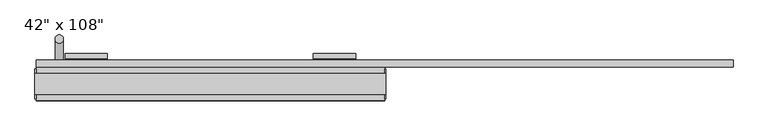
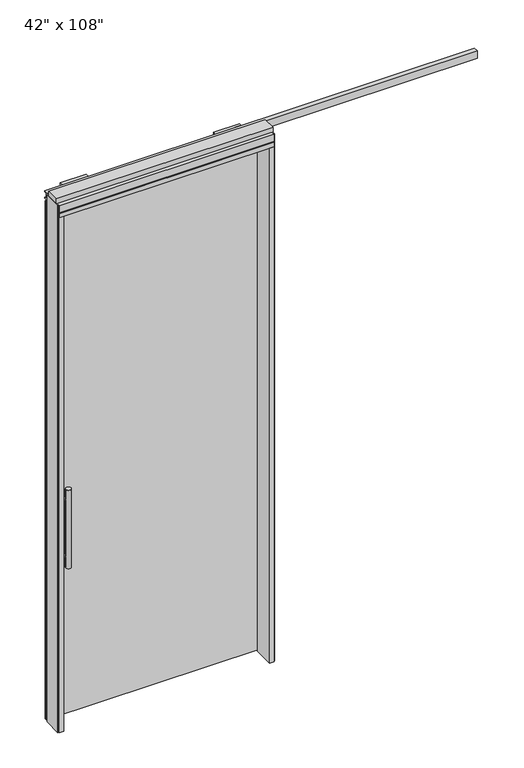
"""IFC4 building model written with IfcOpenShell, lengths in millimetres: furniture geometry."""

from ifc_helpers import new_model, si_unit, frame, origin, origin_with_axes, place, context, project, spatial, polyline, circle_curve, ellipse_curve, outline, extrude, source, transform, mapped, element, save
from ifc_brep_helpers import plane_surface, cylinder_surface, advanced_brep


def furniture_4a507a47(model_context):
    return source(origin(), model_context, "Body", "SolidModel", [
        extrude(outline(polyline([(469.4264771, 74.3677216), (469.4264771, 64.2077216), (-589.4995229, 64.2077216), (-589.4995229, 74.3677216), (469.4264771, 74.3677216)])), origin_with_axes(), (0.0, 0.0, 1.0), 2696.21),
        advanced_brep(
        [(-532.2225229, -3.3562784, 1219.2), (-506.8225229, -3.3562784, 1219.2), (-532.2225229, -3.3562784, 812.8), (-506.8225229, -3.3562784, 812.8), (-532.2225229, -3.3562784, 1164.336), (-532.2225229, -3.3562784, 867.664), (-506.8225229, -3.3562784, 867.664), (-506.8225229, -3.3562784, 1164.336), (-532.2225229, 64.2077216, 1164.336), (-506.8225229, 64.2077216, 1164.336), (-532.2225229, 64.2077216, 867.664), (-506.8225229, 64.2077216, 867.664)],
        [
            (0, 1, circle_curve(frame((-519.5225229, -3.3562784, 1219.2), z_axis=(0.0, 0.0, 1.0), x_axis=(1.0, 0.0, 0.0)), 12.7)),
            (1, 0, circle_curve(frame((-519.5225229, -3.3562784, 1219.2), z_axis=(0.0, 0.0, 1.0), x_axis=(1.0, 0.0, 0.0)), 12.7)),
            (2, 3, circle_curve(frame((-519.5225229, -3.3562784, 812.8), z_axis=(0.0, 0.0, -1.0), x_axis=(1.0, 0.0, 0.0)), 12.7)),
            (3, 2, circle_curve(frame((-519.5225229, -3.3562784, 812.8), z_axis=(0.0, 0.0, -1.0), x_axis=(1.0, 0.0, 0.0)), 12.7)),
            (0, 4),
            (4, 5),
            (5, 2),
            (3, 6),
            (6, 7),
            (7, 1),
            (7, 4, ellipse_curve(frame((-519.5225229, -3.3562784, 1164.336), z_axis=(0.0, -0.707106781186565, 0.70710678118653), x_axis=(0.0, 0.70710678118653, 0.707106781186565)), 17.9605122, 12.7)),
            (5, 6, ellipse_curve(frame((-519.5225229, -3.3562784, 867.664), z_axis=(0.0, -0.70710678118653, -0.7071067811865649), x_axis=(0.0, -0.7071067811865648, 0.7071067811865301)), 17.9605122, 12.7)),
            (4, 7, ellipse_curve(frame((-519.5225229, -3.3562784, 1164.336), z_axis=(0.0, -0.70710678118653, -0.7071067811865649), x_axis=(0.0, -0.7071067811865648, 0.7071067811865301)), 17.9605122, 12.7)),
            (6, 5, ellipse_curve(frame((-519.5225229, -3.3562784, 867.664), z_axis=(0.0, -0.707106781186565, 0.70710678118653), x_axis=(0.0, 0.70710678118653, 0.707106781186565)), 17.9605122, 12.7)),
            (8, 9, circle_curve(frame((-519.5225229, 64.2077216, 1164.336), z_axis=(0.0, 1.0, 0.0), x_axis=(1.0, 0.0, 0.0)), 12.7)),
            (9, 8, circle_curve(frame((-519.5225229, 64.2077216, 1164.336), z_axis=(0.0, 1.0, 0.0), x_axis=(1.0, 0.0, 0.0)), 12.7)),
            (9, 7),
            (4, 8),
            (10, 11, circle_curve(frame((-519.5225229, 64.2077216, 867.664), z_axis=(0.0, 1.0, 0.0), x_axis=(1.0, 0.0, 0.0)), 12.7)),
            (11, 10, circle_curve(frame((-519.5225229, 64.2077216, 867.664), z_axis=(0.0, 1.0, 0.0), x_axis=(1.0, 0.0, 0.0)), 12.7)),
            (11, 6),
            (5, 10),
        ],
        [
            plane_surface(frame((-506.8225229, -3.3562784, 1219.2), z_axis=(0.0, 0.0, 1.0), x_axis=(0.0, 1.0, 0.0))),
            plane_surface(frame((-506.8225229, -3.3562784, 812.8), z_axis=(0.0, 0.0, -1.0), x_axis=(0.0, -1.0, 0.0))),
            cylinder_surface(frame((-519.5225229, -3.3562784, 812.8), z_axis=(0.0, 0.0, 1.0), x_axis=(1.0, 0.0, 0.0)), 12.7),
            plane_surface(frame((-506.8225229, 64.2077216, 1164.336), z_axis=(0.0, 1.0, 0.0), x_axis=(0.0, 0.0, -1.0))),
            cylinder_surface(frame((-519.5225229, 64.2077216, 1164.336), z_axis=(0.0, -1.0, 0.0), x_axis=(1.0, 0.0, 0.0)), 12.7),
            plane_surface(frame((-506.8225229, 64.2077216, 867.664), z_axis=(0.0, 1.0, 0.0), x_axis=(0.0, 0.0, -1.0))),
            cylinder_surface(frame((-519.5225229, 64.2077216, 867.664), z_axis=(0.0, -1.0, 0.0), x_axis=(1.0, 0.0, 0.0)), 12.7),
        ],
        [
            (0, [[1, 2]]),
            (1, [[3, 4]]),
            (2, [[-1, 5, 6, 7, -4, 8, 9, 10]]),
            (2, [[-2, -10, 11, -5]]),
            (2, [[-3, -7, 12, -8]]),
            (2, [[13, -9, 14, -6]]),
            (3, [[15, 16]]),
            (4, [[-16, 17, -13, 18]]),
            (4, [[-15, -18, -11, -17]]),
            (5, [[19, 20]]),
            (6, [[-20, 21, -12, 22]]),
            (6, [[-19, -22, -14, -21]]),
        ],
    ),
        advanced_brep(
        [(-532.2225229, 141.9317216, 1219.2), (-506.8225229, 141.9317216, 1219.2), (-532.2225229, 141.9317216, 812.8), (-506.8225229, 141.9317216, 812.8), (-506.8225229, 141.9317216, 1164.336), (-506.8225229, 141.9317216, 867.664), (-532.2225229, 141.9317216, 867.664), (-532.2225229, 141.9317216, 1164.336), (-532.2225229, 74.3677216, 1164.336), (-506.8225229, 74.3677216, 1164.336), (-532.2225229, 74.3677216, 867.664), (-506.8225229, 74.3677216, 867.664)],
        [
            (0, 1, circle_curve(frame((-519.5225229, 141.9317216, 1219.2), z_axis=(0.0, 0.0, 1.0), x_axis=(1.0, 0.0, 0.0)), 12.7)),
            (1, 0, circle_curve(frame((-519.5225229, 141.9317216, 1219.2), z_axis=(0.0, 0.0, 1.0), x_axis=(1.0, 0.0, 0.0)), 12.7)),
            (2, 3, circle_curve(frame((-519.5225229, 141.9317216, 812.8), z_axis=(0.0, 0.0, -1.0), x_axis=(1.0, 0.0, 0.0)), 12.7)),
            (3, 2, circle_curve(frame((-519.5225229, 141.9317216, 812.8), z_axis=(0.0, 0.0, -1.0), x_axis=(1.0, 0.0, 0.0)), 12.7)),
            (1, 4),
            (4, 5),
            (5, 3),
            (2, 6),
            (6, 7),
            (7, 0),
            (7, 4, ellipse_curve(frame((-519.5225229, 141.9317216, 1164.336), z_axis=(0.0, 0.707106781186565, 0.70710678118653), x_axis=(0.0, -0.70710678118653, 0.707106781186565)), 17.9605122, 12.7)),
            (6, 5, ellipse_curve(frame((-519.5225229, 141.9317216, 867.664), z_axis=(0.0, 0.707106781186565, 0.70710678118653), x_axis=(0.0, -0.70710678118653, 0.707106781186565)), 17.9605122, 12.7)),
            (4, 7, ellipse_curve(frame((-519.5225229, 141.9317216, 1164.336), z_axis=(0.0, 0.70710678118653, -0.7071067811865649), x_axis=(0.0, 0.7071067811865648, 0.7071067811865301)), 17.9605122, 12.7)),
            (5, 6, ellipse_curve(frame((-519.5225229, 141.9317216, 867.664), z_axis=(0.0, 0.70710678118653, -0.7071067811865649), x_axis=(0.0, 0.7071067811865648, 0.7071067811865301)), 17.9605122, 12.7)),
            (8, 9, circle_curve(frame((-519.5225229, 74.3677216, 1164.336), z_axis=(0.0, -1.0, 0.0), x_axis=(1.0, 0.0, 0.0)), 12.7)),
            (9, 8, circle_curve(frame((-519.5225229, 74.3677216, 1164.336), z_axis=(0.0, -1.0, 0.0), x_axis=(1.0, 0.0, 0.0)), 12.7)),
            (8, 7),
            (4, 9),
            (10, 11, circle_curve(frame((-519.5225229, 74.3677216, 867.664), z_axis=(0.0, -1.0, 0.0), x_axis=(1.0, 0.0, 0.0)), 12.7)),
            (11, 10, circle_curve(frame((-519.5225229, 74.3677216, 867.664), z_axis=(0.0, -1.0, 0.0), x_axis=(1.0, 0.0, 0.0)), 12.7)),
            (10, 6),
            (5, 11),
        ],
        [
            plane_surface(frame((-506.8225229, 141.9317216, 1219.2), z_axis=(0.0, 0.0, 1.0), x_axis=(0.0, -1.0, 0.0))),
            plane_surface(frame((-506.8225229, 141.9317216, 812.8), z_axis=(0.0, 0.0, -1.0), x_axis=(0.0, 1.0, 0.0))),
            cylinder_surface(frame((-519.5225229, 141.9317216, 812.8), z_axis=(0.0, 0.0, 1.0), x_axis=(1.0, 0.0, 0.0)), 12.7),
            plane_surface(frame((-506.8225229, 74.3677216, 1164.336), z_axis=(0.0, -1.0, 0.0), x_axis=(0.0, 0.0, -1.0))),
            cylinder_surface(frame((-519.5225229, 74.3677216, 1164.336), z_axis=(0.0, 1.0, 0.0), x_axis=(1.0, 0.0, 0.0)), 12.7),
            plane_surface(frame((-506.8225229, 74.3677216, 867.664), z_axis=(0.0, -1.0, 0.0), x_axis=(0.0, 0.0, -1.0))),
            cylinder_surface(frame((-519.5225229, 74.3677216, 867.664), z_axis=(0.0, 1.0, 0.0), x_axis=(1.0, 0.0, 0.0)), 12.7),
        ],
        [
            (0, [[1, 2]]),
            (1, [[3, 4]]),
            (2, [[5, 6, 7, -3, 8, 9, 10, -2]]),
            (2, [[-10, 11, -5, -1]]),
            (2, [[-9, 12, -6, 13]]),
            (2, [[-7, 14, -8, -4]]),
            (3, [[15, 16]]),
            (4, [[17, -13, 18, -15]]),
            (4, [[-18, -11, -17, -16]]),
            (5, [[19, 20]]),
            (6, [[21, -14, 22, -19]]),
            (6, [[-22, -12, -21, -20]]),
        ],
    ),
        extrude(outline(polyline([(63.1282216, 2654.3), (59.5722216, 2654.3), (59.5722216, 2702.179), (82.1782216, 2702.179), (82.1782216, 2743.2), (97.6722216, 2743.2), (97.6722216, 2654.3), (75.4472216, 2654.3), (75.4472216, 2696.21), (63.1282216, 2696.21), (63.1282216, 2654.3)])), frame((-501.2345229, 0.0, 0.0), z_axis=(1.0, 0.0, 0.0), x_axis=(0.0, 1.0, 0.0)), (0.0, 0.0, 1.0), 128.016),
        extrude(outline(polyline([(63.1282216, 2654.3), (59.5722216, 2654.3), (59.5722216, 2702.179), (82.1782216, 2702.179), (82.1782216, 2743.2), (97.6722216, 2743.2), (97.6722216, 2654.3), (75.4472216, 2654.3), (75.4472216, 2696.21), (63.1282216, 2696.21), (63.1282216, 2654.3)])), frame((253.1454771, 0.0, 0.0), z_axis=(1.0, 0.0, 0.0), x_axis=(0.0, 1.0, 0.0)), (0.0, 0.0, 1.0), 128.016),
        extrude(outline(polyline([(77.9237216, 2706.878), (56.2067216, 2706.878), (56.2067216, 2746.502), (77.9237216, 2746.502), (77.9237216, 2741.168), (65.2237216, 2741.168), (65.2237216, 2712.212), (77.9237216, 2712.212), (77.9237216, 2706.878)])), frame((-589.4995229, 0.0, 0.0), z_axis=(1.0, 0.0, 0.0), x_axis=(0.0, 1.0, 0.0)), (0.0, 0.0, 1.0), 2117.852),
        extrude(outline(polyline([(-589.4995229, 55.3177216), (469.4264771, 55.3177216), (469.4264771, -46.2822784), (-589.4995229, -46.2822784), (-589.4995229, 55.3177216)])), frame((0.0, 0.0, 2679.7), z_axis=(0.0, 0.0, 1.0), x_axis=(1.0, 0.0, 0.0)), (0.0, 0.0, 1.0), 22.225),
        extrude(outline(polyline([(473.3634771, 50.3647216), (473.3634771, -41.3292784), (469.4264771, -41.3292784), (469.4264771, 50.3647216), (473.3634771, 50.3647216)])), origin_with_axes(), (0.0, 0.0, 1.0), 2743.2),
        extrude(outline(polyline([(-593.4365229, 50.3647216), (-589.4995229, 50.3647216), (-589.4995229, -41.3292784), (-593.4365229, -41.3292784), (-593.4365229, 50.3647216)])), origin_with_axes(), (0.0, 0.0, 1.0), 2743.2),
        extrude(outline(polyline([(447.2014771, 55.3177216), (469.4264771, 55.3177216), (469.4264771, -46.2822784), (447.2014771, -46.2822784), (447.2014771, 55.3177216)])), origin_with_axes(), (0.0, 0.0, 1.0), 2679.7),
        extrude(outline(polyline([(-567.2745229, 55.3177216), (-567.2745229, -46.2822784), (-589.4995229, -46.2822784), (-589.4995229, 55.3177216), (-567.2745229, 55.3177216)])), origin_with_axes(), (0.0, 0.0, 1.0), 2679.7),
        extrude(outline(polyline([(55.3177216, 2706.878), (50.3647216, 2706.878), (50.3647216, 2701.925), (-41.3292784, 2701.925), (-41.3292784, 2706.878), (-46.2822784, 2706.878), (-46.2822784, 2743.2), (55.3177216, 2743.2), (55.3177216, 2706.878)])), frame((-589.4995229, 0.0, 0.0), z_axis=(1.0, 0.0, 0.0), x_axis=(0.0, 1.0, 0.0)), (0.0, 0.0, 1.0), 1058.926),
        extrude(outline(polyline([(-593.4365229, 37.0297216), (473.3634771, 37.0297216), (473.3634771, -27.9942784), (-593.4365229, -27.9942784), (-593.4365229, 37.0297216)])), frame((0.0, 0.0, 2743.2), z_axis=(0.0, 0.0, 1.0), x_axis=(1.0, 0.0, 0.0)), (0.0, 0.0, 1.0), 25.4),
    ])


if __name__ == "__main__":
    model = new_model("IFC4")
    model_context = context("Model", 3, world=origin())
    ifc_project = project(units=[si_unit("LENGTHUNIT", "METRE", prefix="MILLI")], contexts=[model_context])
    site = spatial("IfcSite", under=ifc_project)
    building = spatial("IfcBuilding", under=site)
    placement = place(None, origin())
    furniture_shape = furniture_4a507a47(model_context)
    element("IfcFurniture", 1, ObjectType="Haworth_EncloseFrameless_Door_SingleSliding : 42\" x 108\"", at=placement, inside=building, context=model_context, shape_type="MappedRepresentation", body=[
        mapped(furniture_shape, transform((0.0, 0.0, 0.0), x_axis=(1.0, 0.0, 0.0), y_axis=(0.0, 1.0, 0.0), z_axis=(0.0, 0.0, 1.0))),
    ])
    save(model, "model.ifc")
